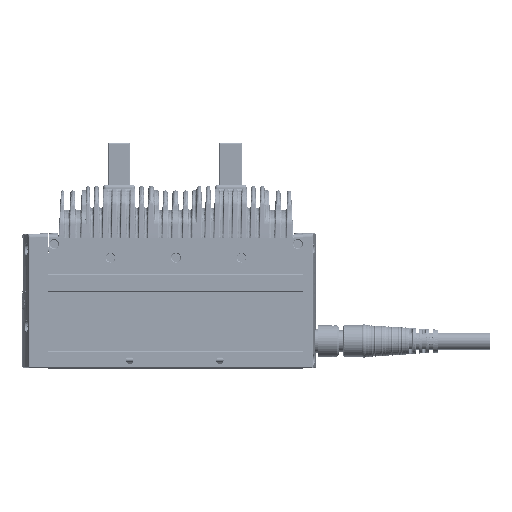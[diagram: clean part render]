
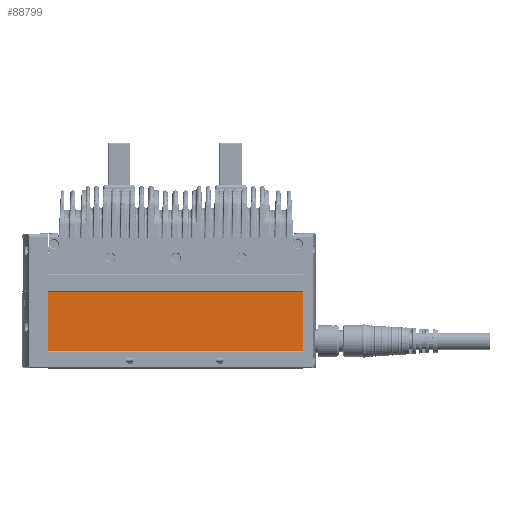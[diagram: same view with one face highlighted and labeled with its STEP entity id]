
A CAD part, top view. The second image highlights one B-rep face of the part: STEP entity #88799.
In plain terms, the highlighted planar face has unit normal (0, 0, 1).
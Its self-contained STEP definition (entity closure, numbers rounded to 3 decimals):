
#10718=PLANE('',#98486);
#15745=FACE_OUTER_BOUND('',#21107,.T.);
#21107=EDGE_LOOP('',(#82867,#82868,#82869,#82870));
#25961=LINE('',#234460,#30845);
#25987=LINE('',#234591,#30871);
#26010=LINE('',#234635,#30894);
#26011=LINE('',#234637,#30895);
#30845=VECTOR('',#122026,1000.);
#30871=VECTOR('',#122172,1000.);
#30894=VECTOR('',#122205,1000.);
#30895=VECTOR('',#122208,1000.);
#43715=VERTEX_POINT('',#234457);
#43716=VERTEX_POINT('',#234459);
#43760=VERTEX_POINT('',#234588);
#43761=VERTEX_POINT('',#234590);
#56777=EDGE_CURVE('',#43716,#43715,#25961,.T.);
#56843=EDGE_CURVE('',#43760,#43761,#25987,.T.);
#56866=EDGE_CURVE('',#43760,#43716,#26010,.T.);
#56867=EDGE_CURVE('',#43761,#43715,#26011,.T.);
#82867=ORIENTED_EDGE('',*,*,#56777,.T.);
#82868=ORIENTED_EDGE('',*,*,#56867,.F.);
#82869=ORIENTED_EDGE('',*,*,#56843,.F.);
#82870=ORIENTED_EDGE('',*,*,#56866,.T.);
#88799=ADVANCED_FACE('',(#15745),#10718,.F.);
#98486=AXIS2_PLACEMENT_3D('',#234636,#122206,#122207);
#122026=DIRECTION('',(0.,-1.,0.));
#122172=DIRECTION('',(0.,-1.,0.));
#122205=DIRECTION('',(-1.,0.,0.));
#122206=DIRECTION('center_axis',(0.,0.,
-1.));
#122207=DIRECTION('ref_axis',(0.,1.,0.));
#122208=DIRECTION('',(-1.,0.,0.));
#234457=CARTESIAN_POINT('',(-56.,8.122,16.2));
#234459=CARTESIAN_POINT('',(-56.,34.45,16.2));
#234460=CARTESIAN_POINT('',(-56.,34.45,16.2));
#234588=CARTESIAN_POINT('',(57.,34.45,16.2));
#234590=CARTESIAN_POINT('',(57.,8.122,16.2));
#234591=CARTESIAN_POINT('',(57.,34.45,16.2));
#234635=CARTESIAN_POINT('',(57.,34.45,16.2));
#234636=CARTESIAN_POINT('Origin',(57.,34.45,16.2));
#234637=CARTESIAN_POINT('',(57.,8.122,16.2));
